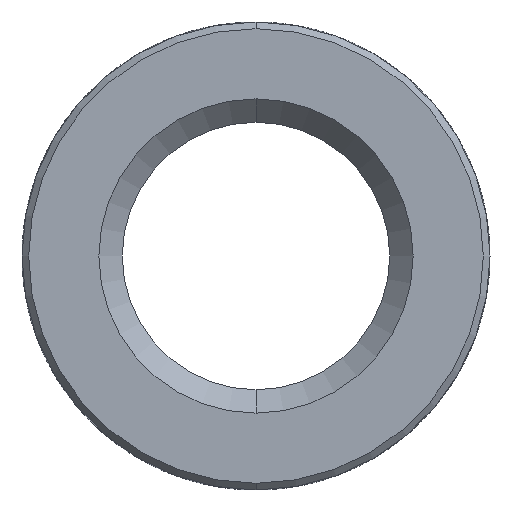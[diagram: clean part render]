
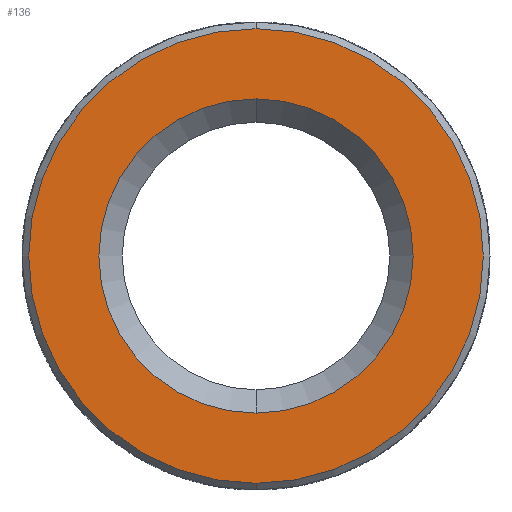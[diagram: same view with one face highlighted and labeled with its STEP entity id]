
A CAD part, front view. The second image highlights one B-rep face of the part: STEP entity #136.
In plain terms, the highlighted planar face has unit normal (0, -1, 0).
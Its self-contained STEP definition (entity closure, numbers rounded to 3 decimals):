
#132 = CARTESIAN_POINT ( 'NONE',  ( 0., -4.7, 0. ) ) ;
#136 = ADVANCED_FACE ( 'NONE', ( #1560, #489 ), #1117, .T. ) ;
#143 = CIRCLE ( 'NONE', #1362, 2.35 ) ;
#264 = AXIS2_PLACEMENT_3D ( 'NONE', #2217, #1902, #2476 ) ;
#335 = ORIENTED_EDGE ( 'NONE', *, *, #1195, .T. ) ;
#366 = DIRECTION ( 'NONE',  ( 0., -1., 0. ) ) ;
#489 = FACE_BOUND ( 'NONE', #2089, .T. ) ;
#576 = CIRCLE ( 'NONE', #611, 3.4 ) ;
#587 = CARTESIAN_POINT ( 'NONE',  ( 0., -4.7, -2.35 ) ) ;
#611 = AXIS2_PLACEMENT_3D ( 'NONE', #2155, #366, #2455 ) ;
#752 = EDGE_CURVE ( 'NONE', #2643, #2478, #576, .T. ) ;
#808 = CARTESIAN_POINT ( 'NONE',  ( 0., -4.7, 2.35 ) ) ;
#812 = DIRECTION ( 'NONE',  ( 0., 0., -1. ) ) ;
#830 = DIRECTION ( 'NONE',  ( 0., -1., 0. ) ) ;
#1044 = EDGE_LOOP ( 'NONE', ( #1802, #2638 ) ) ;
#1117 = PLANE ( 'NONE',  #2840 ) ;
#1195 = EDGE_CURVE ( 'NONE', #3732, #2265, #143, .T. ) ;
#1249 = CARTESIAN_POINT ( 'NONE',  ( 0., -4.7, 3.4 ) ) ;
#1362 = AXIS2_PLACEMENT_3D ( 'NONE', #2494, #2794, #3347 ) ;
#1560 = FACE_OUTER_BOUND ( 'NONE', #1044, .T. ) ;
#1638 = EDGE_CURVE ( 'NONE', #2265, #3732, #3460, .T. ) ;
#1802 = ORIENTED_EDGE ( 'NONE', *, *, #2086, .T. ) ;
#1902 = DIRECTION ( 'NONE',  ( 0., 1., 0. ) ) ;
#1945 = DIRECTION ( 'NONE',  ( 0., -1., 0. ) ) ;
#2007 = CARTESIAN_POINT ( 'NONE',  ( 0., -4.7, 3.5 ) ) ;
#2086 = EDGE_CURVE ( 'NONE', #2478, #2643, #2331, .T. ) ;
#2089 = EDGE_LOOP ( 'NONE', ( #3472, #335 ) ) ;
#2155 = CARTESIAN_POINT ( 'NONE',  ( 0., -4.7, 0. ) ) ;
#2217 = CARTESIAN_POINT ( 'NONE',  ( 0., -4.7, 0. ) ) ;
#2265 = VERTEX_POINT ( 'NONE', #587 ) ;
#2331 = CIRCLE ( 'NONE', #2665, 3.4 ) ;
#2455 = DIRECTION ( 'NONE',  ( 0., 0., -1. ) ) ;
#2476 = DIRECTION ( 'NONE',  ( 0., 0., -1. ) ) ;
#2478 = VERTEX_POINT ( 'NONE', #1249 ) ;
#2494 = CARTESIAN_POINT ( 'NONE',  ( 0., -4.7, 0. ) ) ;
#2638 = ORIENTED_EDGE ( 'NONE', *, *, #752, .T. ) ;
#2643 = VERTEX_POINT ( 'NONE', #3459 ) ;
#2665 = AXIS2_PLACEMENT_3D ( 'NONE', #132, #1945, #3407 ) ;
#2794 = DIRECTION ( 'NONE',  ( 0., 1., 0. ) ) ;
#2840 = AXIS2_PLACEMENT_3D ( 'NONE', #2007, #830, #812 ) ;
#3347 = DIRECTION ( 'NONE',  ( 0., 0., -1. ) ) ;
#3407 = DIRECTION ( 'NONE',  ( 0., 0., -1. ) ) ;
#3459 = CARTESIAN_POINT ( 'NONE',  ( 0., -4.7, -3.4 ) ) ;
#3460 = CIRCLE ( 'NONE', #264, 2.35 ) ;
#3472 = ORIENTED_EDGE ( 'NONE', *, *, #1638, .T. ) ;
#3732 = VERTEX_POINT ( 'NONE', #808 ) ;
